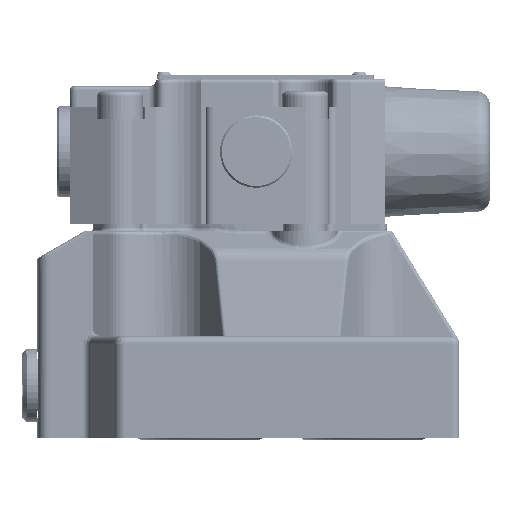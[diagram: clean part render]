
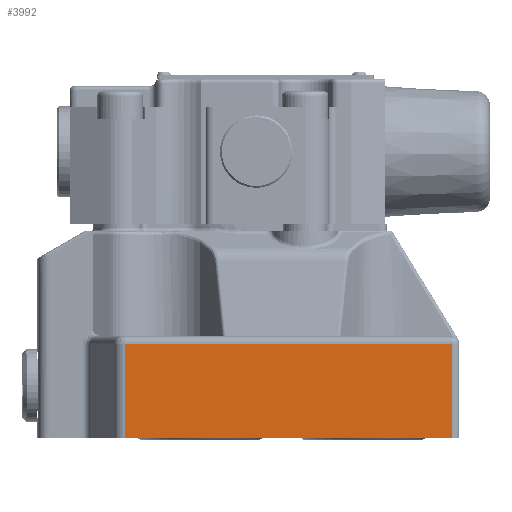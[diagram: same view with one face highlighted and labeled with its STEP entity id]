
A CAD part, front view. The second image highlights one B-rep face of the part: STEP entity #3992.
In plain terms, the highlighted planar face has unit normal (0, -1, 0).
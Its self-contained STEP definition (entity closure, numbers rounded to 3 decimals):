
#1111=LINE('',#42876,#1699);
#1196=LINE('',#43309,#1784);
#1211=LINE('',#43374,#1799);
#1212=LINE('',#43376,#1800);
#1699=VECTOR('',#13591,1.);
#1784=VECTOR('',#13872,1.);
#1799=VECTOR('',#13913,1.);
#1800=VECTOR('',#13914,1.);
#3038=PLANE('',#11775);
#3410=FACE_OUTER_BOUND('',#5087,.T.);
#3992=ADVANCED_FACE('',(#3410),#3038,.F.);
#5087=EDGE_LOOP('',(#7009,#7010,#7011,#7012));
#7009=ORIENTED_EDGE('',*,*,#9923,.T.);
#7010=ORIENTED_EDGE('',*,*,#10117,.T.);
#7011=ORIENTED_EDGE('',*,*,#10118,.T.);
#7012=ORIENTED_EDGE('',*,*,#10094,.T.);
#8759=VERTEX_POINT('',#42875);
#8760=VERTEX_POINT('',#42877);
#8902=VERTEX_POINT('',#43310);
#8915=VERTEX_POINT('',#43375);
#9923=EDGE_CURVE('',#8760,#8759,#1111,.T.);
#10094=EDGE_CURVE('',#8902,#8760,#1196,.T.);
#10117=EDGE_CURVE('',#8759,#8915,#1211,.T.);
#10118=EDGE_CURVE('',#8915,#8902,#1212,.T.);
#11775=AXIS2_PLACEMENT_3D('',#43377,#13915,#13916);
#13591=DIRECTION('',(1.,0.,0.));
#13872=DIRECTION('',(0.,0.,-1.));
#13913=DIRECTION('',(0.,0.,1.));
#13914=DIRECTION('',(-1.,0.,0.));
#13915=DIRECTION('',(0.,1.,0.));
#13916=DIRECTION('',(0.,0.,-1.));
#42875=CARTESIAN_POINT('',(-640.76,-106.932,31.));
#42876=CARTESIAN_POINT('',(-730.982,-106.932,31.));
#42877=CARTESIAN_POINT('',(-730.982,-106.932,31.));
#43309=CARTESIAN_POINT('',(-730.982,-106.932,90.));
#43310=CARTESIAN_POINT('',(-730.982,-106.932,57.));
#43374=CARTESIAN_POINT('',(-640.76,-106.932,90.));
#43375=CARTESIAN_POINT('',(-640.76,-106.932,57.));
#43376=CARTESIAN_POINT('',(-730.982,-106.932,57.));
#43377=CARTESIAN_POINT('',(-730.982,-106.932,90.));
